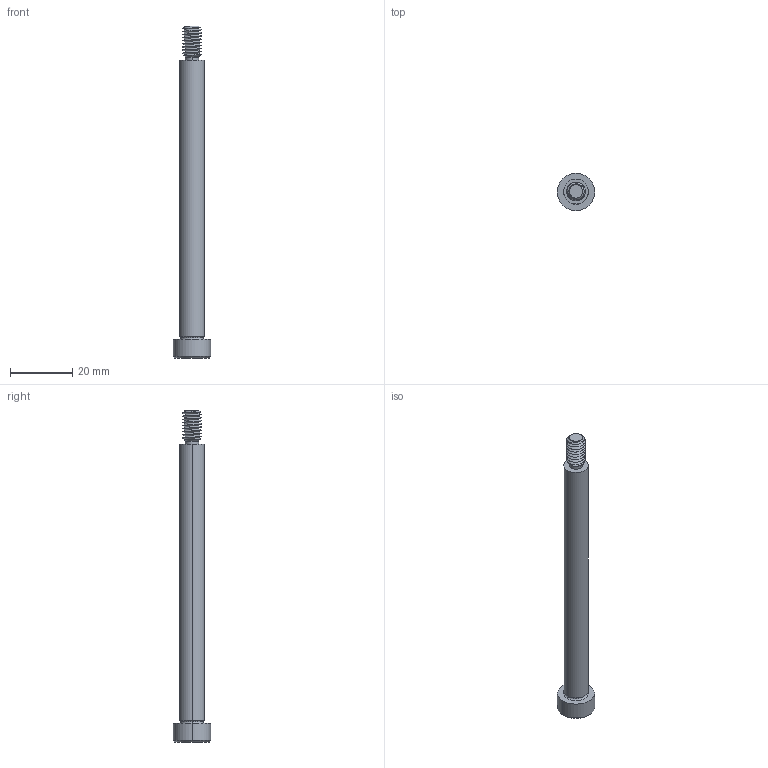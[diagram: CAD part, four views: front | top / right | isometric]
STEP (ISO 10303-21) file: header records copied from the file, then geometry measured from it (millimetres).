
FILE_DESCRIPTION (( 'STEP AP203' ), '1' );
FILE_NAME ('P0130.080-090-B2.step', '2021-11-09T21:45:59', ( '' ), ( '' ), 'SwSTEP 2.0', 'SolidWorks 2019', '' );
FILE_SCHEMA (( 'CONFIG_CONTROL_DESIGN' ));
Length unit declared in the file: millimetre
Products named in the file (1): P0130.080-090-B2
Bounding box: 12 x 12 x 107 mm (x, y, z)
Volume: 5359.3 mm3; surface area: 3094.8 mm2
Topology: 1 solids, 1 shells, 60 faces, 142 edges, 85 vertices
Faces by surface type: cylinder 24, plane 16, cone 14, torus 4, bspline 2
Entity records: 4245 total; most frequent: CARTESIAN_POINT 2899, ORIENTED_EDGE 280, DIRECTION 247, EDGE_CURVE 140, AXIS2_PLACEMENT_3D 99, VERTEX_POINT 85, EDGE_LOOP 63, FACE_OUTER_BOUND 60
